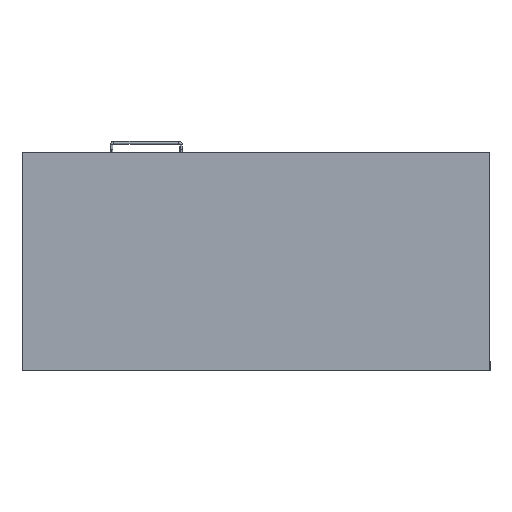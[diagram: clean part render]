
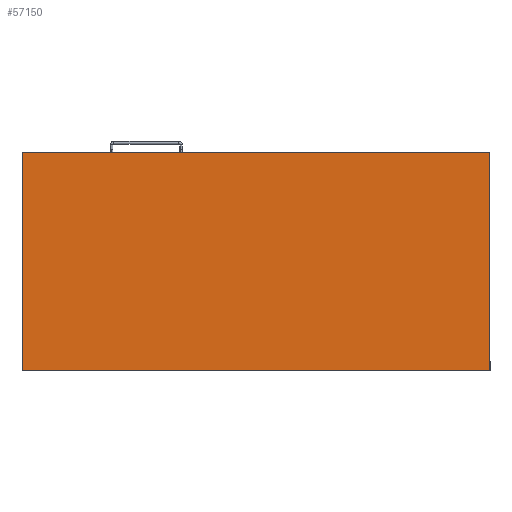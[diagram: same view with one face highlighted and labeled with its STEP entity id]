
A CAD part, front view. The second image highlights one B-rep face of the part: STEP entity #57150.
In plain terms, the highlighted planar face has unit normal (0, -1, 0) as drawn and (0, 0, -1) by its records, which use the part's own axes.
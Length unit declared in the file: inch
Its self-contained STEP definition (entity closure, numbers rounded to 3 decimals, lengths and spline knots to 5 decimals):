
#3237 = CARTESIAN_POINT ( 'NONE',  ( -134.56977, 1.96867, 23.68244 ) ) ;
#5815 = EDGE_LOOP ( 'NONE', ( #69468, #26831, #46853, #38076 ) ) ;
#8867 = LINE ( 'NONE', #29998, #57797 ) ;
#10614 = DIRECTION ( 'NONE',  ( -1., 0., 0. ) ) ;
#12046 = LINE ( 'NONE', #12389, #45144 ) ;
#12389 = CARTESIAN_POINT ( 'NONE',  ( -107.56977, -10.62508, 23.68244 ) ) ;
#12692 = AXIS2_PLACEMENT_3D ( 'NONE', #16260, #59240, #32793 ) ;
#15044 = CARTESIAN_POINT ( 'NONE',  ( -134.56977, -10.62508, 23.68244 ) ) ;
#15214 = CARTESIAN_POINT ( 'NONE',  ( -107.56977, 14.56242, 23.68244 ) ) ;
#15961 = EDGE_CURVE ( 'NONE', #31081, #59447, #51499, .T. ) ;
#16260 = CARTESIAN_POINT ( 'NONE',  ( -80.56977, 14.56242, 23.68244 ) ) ;
#19879 = CARTESIAN_POINT ( 'NONE',  ( -134.56977, 14.56242, 23.68244 ) ) ;
#26831 = ORIENTED_EDGE ( 'NONE', *, *, #66652, .F. ) ;
#27312 = CARTESIAN_POINT ( 'NONE',  ( -80.56977, 14.56242, 23.68244 ) ) ;
#27548 = VERTEX_POINT ( 'NONE', #27312 ) ;
#29998 = CARTESIAN_POINT ( 'NONE',  ( -80.56977, 1.96867, 23.68244 ) ) ;
#31081 = VERTEX_POINT ( 'NONE', #19879 ) ;
#32558 = VERTEX_POINT ( 'NONE', #68542 ) ;
#32793 = DIRECTION ( 'NONE',  ( 1., 0., 0. ) ) ;
#38076 = ORIENTED_EDGE ( 'NONE', *, *, #15961, .F. ) ;
#44096 = DIRECTION ( 'NONE',  ( 1., 0., 0. ) ) ;
#45144 = VECTOR ( 'NONE', #44096, 39.37008 ) ;
#46853 = ORIENTED_EDGE ( 'NONE', *, *, #63965, .F. ) ;
#48016 = VECTOR ( 'NONE', #66676, 39.37008 ) ;
#49787 = VECTOR ( 'NONE', #10614, 39.37008 ) ;
#51499 = LINE ( 'NONE', #3237, #48016 ) ;
#53937 = FACE_OUTER_BOUND ( 'NONE', #5815, .T. ) ;
#56780 = DIRECTION ( 'NONE',  ( 0., 1., 0. ) ) ;
#57150 = ADVANCED_FACE ( 'NONE', ( #53937 ), #64543, .F. ) ;
#57797 = VECTOR ( 'NONE', #56780, 39.37008 ) ;
#59240 = DIRECTION ( 'NONE',  ( 0., 0., 1. ) ) ;
#59447 = VERTEX_POINT ( 'NONE', #15044 ) ;
#63965 = EDGE_CURVE ( 'NONE', #59447, #32558, #12046, .T. ) ;
#64543 = PLANE ( 'NONE',  #12692 ) ;
#64852 = LINE ( 'NONE', #15214, #49787 ) ;
#66652 = EDGE_CURVE ( 'NONE', #32558, #27548, #8867, .T. ) ;
#66676 = DIRECTION ( 'NONE',  ( 0., -1., 0. ) ) ;
#66819 = EDGE_CURVE ( 'NONE', #27548, #31081, #64852, .T. ) ;
#68542 = CARTESIAN_POINT ( 'NONE',  ( -80.56977, -10.62508, 23.68244 ) ) ;
#69468 = ORIENTED_EDGE ( 'NONE', *, *, #66819, .F. ) ;
